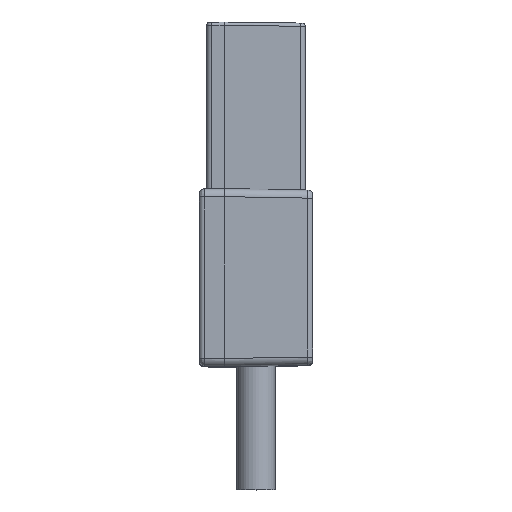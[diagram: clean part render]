
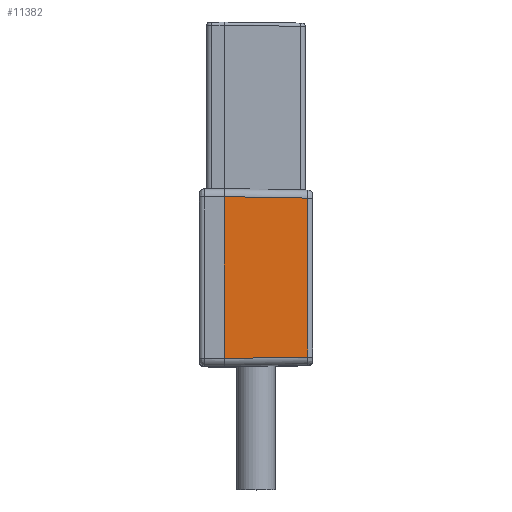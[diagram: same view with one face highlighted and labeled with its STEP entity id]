
A CAD part, top view. The second image highlights one B-rep face of the part: STEP entity #11382.
In plain terms, the highlighted planar face has unit normal (0.018, 0, 1).
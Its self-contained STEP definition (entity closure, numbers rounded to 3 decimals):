
#3465=DIRECTION('',(0.,-1.,0.));
#3466=VECTOR('',#3465,9.82);
#3467=CARTESIAN_POINT('',(3.205,-2.49,12.61));
#3468=LINE('',#3467,#3466);
#3472=DIRECTION('',(1.,0.017,-0.017));
#3473=VECTOR('',#3472,5.171);
#3474=CARTESIAN_POINT('',(-1.964,-12.4,12.7));
#3475=LINE('',#3474,#3473);
#3479=DIRECTION('',(1.,-0.017,-0.017));
#3480=VECTOR('',#3479,5.171);
#3481=CARTESIAN_POINT('',(-1.964,-2.4,12.7));
#3482=LINE('',#3481,#3480);
#3486=CARTESIAN_POINT('',(3.205,-12.31,12.61));
#7002=DIRECTION('',(0.,1.,0.));
#7003=VECTOR('',#7002,10.);
#7004=CARTESIAN_POINT('',(-1.964,-12.4,12.7));
#7005=LINE('',#7004,#7003);
#8391=CARTESIAN_POINT('',(-1.964,-12.4,12.7));
#8392=CARTESIAN_POINT('',(-1.964,-2.4,12.7));
#8393=VERTEX_POINT('',#8391);
#8394=VERTEX_POINT('',#8392);
#8465=VERTEX_POINT('',#3486);
#8468=CARTESIAN_POINT('',(3.205,-2.49,12.61));
#8469=VERTEX_POINT('',#8468);
#11368=CARTESIAN_POINT('',(-1.964,-12.9,12.7));
#11369=DIRECTION('',(0.017,0.,1.));
#11370=DIRECTION('',(0.,1.,0.));
#11371=AXIS2_PLACEMENT_3D('',#11368,#11369,#11370);
#11372=PLANE('',#11371);
#11373=ORIENTED_EDGE('',*,*,#11362,.T.);
#11375=ORIENTED_EDGE('',*,*,#11374,.F.);
#11377=ORIENTED_EDGE('',*,*,#11376,.T.);
#11379=ORIENTED_EDGE('',*,*,#11378,.T.);
#11380=EDGE_LOOP('',(#11373,#11375,#11377,#11379));
#11381=FACE_OUTER_BOUND('',#11380,.F.);
#11382=ADVANCED_FACE('',(#11381),#11372,.T.);
#11362=EDGE_CURVE('',#8469,#8465,#3468,.T.);
#11374=EDGE_CURVE('',#8393,#8465,#3475,.T.);
#11376=EDGE_CURVE('',#8393,#8394,#7005,.T.);
#11378=EDGE_CURVE('',#8394,#8469,#3482,.T.);
